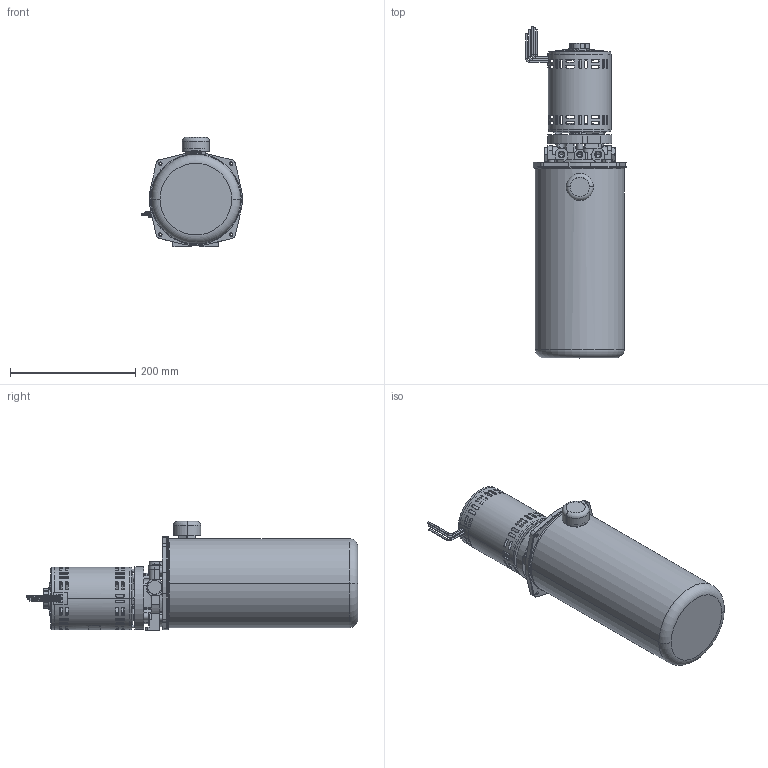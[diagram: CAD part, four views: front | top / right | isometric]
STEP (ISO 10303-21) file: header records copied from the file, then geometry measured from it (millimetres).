
FILE_DESCRIPTION((''),'2;1');
FILE_NAME('108-HA-HD-I','2011-08-16T',('dctmp01'),('OILDYNE'),'PRO/ENGINEER BY PARAMETRIC TECHNOLOGY CORPORATION, 2005380','PRO/ENGINEER BY PARAMETRIC TECHNOLOGY CORPORATION, 2005380','');
FILE_SCHEMA(('CONFIG_CONTROL_DESIGN'));
Length unit declared in the file: inch
Products named in the file (1): 108-HA-HD-I
Bounding box: 160.89 x 530.48 x 174.63 mm (x, y, z)
Surface area: 332369.9 mm2 (no closed solid volume)
Topology: 0 solids, 43 shells, 547 faces, 2828 edges, 2207 vertices
Faces by surface type: plane 257, cylinder 206, cone 45, torus 35, sphere 4
Entity records: 31157 total; most frequent: CARTESIAN_POINT 9895, DIRECTION 4227, ORIENTED_EDGE 3868, EDGE_CURVE 2806, VERTEX_POINT 2201, AXIS2_PLACEMENT_3D 1471, VECTOR 1285, LINE 1285
